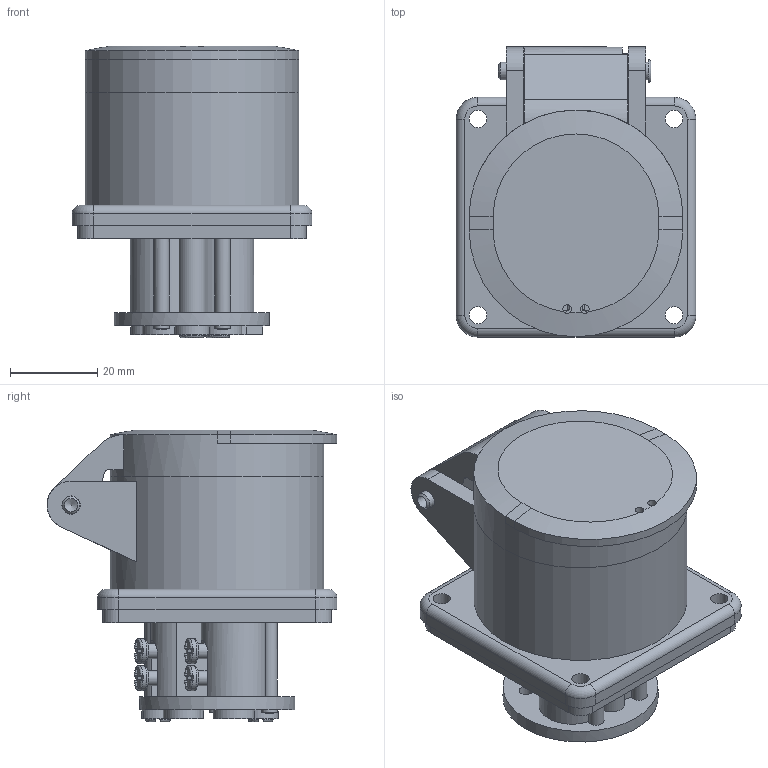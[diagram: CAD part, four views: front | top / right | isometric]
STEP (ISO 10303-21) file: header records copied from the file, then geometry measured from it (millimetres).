
FILE_DESCRIPTION(/* description */ (''),/* implementation_level */ '2;1');
FILE_NAME(/* name */ '4006085.stp',/* time_stamp */ '2019-03-01T21:34:13+01:00',/* author */ (''),/* organization */ (''),/* preprocessor_version */ 'ST-DEVELOPER v16.7',/* originating_system */ 'SIEMENS PLM Software NX 12.0',/* authorisation */ '');
FILE_SCHEMA (('AUTOMOTIVE_DESIGN { 1 0 10303 214 3 1 1 1 }'));
Length unit declared in the file: millimetre
Products named in the file (1): bsom23CC53FBqnwq
Bounding box: 55 x 66.5 x 66.85 mm (x, y, z)
Volume: 71708.4 mm3; surface area: 54519.3 mm2
Topology: 17 solids, 17 shells, 1453 faces, 3490 edges, 2030 vertices
Faces by surface type: cylinder 419, plane 402, torus 246, bspline 246, cone 65, sphere 60, extrusion 15
Full cylindrical faces by diameter (mm): 1 x3, 2 x2, 2.2 x2, 3 x2, 3.1 x2, 3.2 x4, 3.5 x15, 3.8 x3, 4 x11, 4.2 x2, 4.5 x1, 4.7 x3, 5.7 x2, 5.8 x6, 6 x2, 7 x3, 7.2 x1, 7.5 x2, 8 x2, 9.5 x2, 10 x3, 35.6 x1, 37 x1, 40 x1, 45 x1, 49 x2
Entity records: 55681 total; most frequent: CARTESIAN_POINT 24705, DIRECTION 6452, ORIENTED_EDGE 6138, EDGE_CURVE 3069, AXIS2_PLACEMENT_3D 2673, VERTEX_POINT 1950, EDGE_LOOP 1811, ADVANCED_FACE 1453
